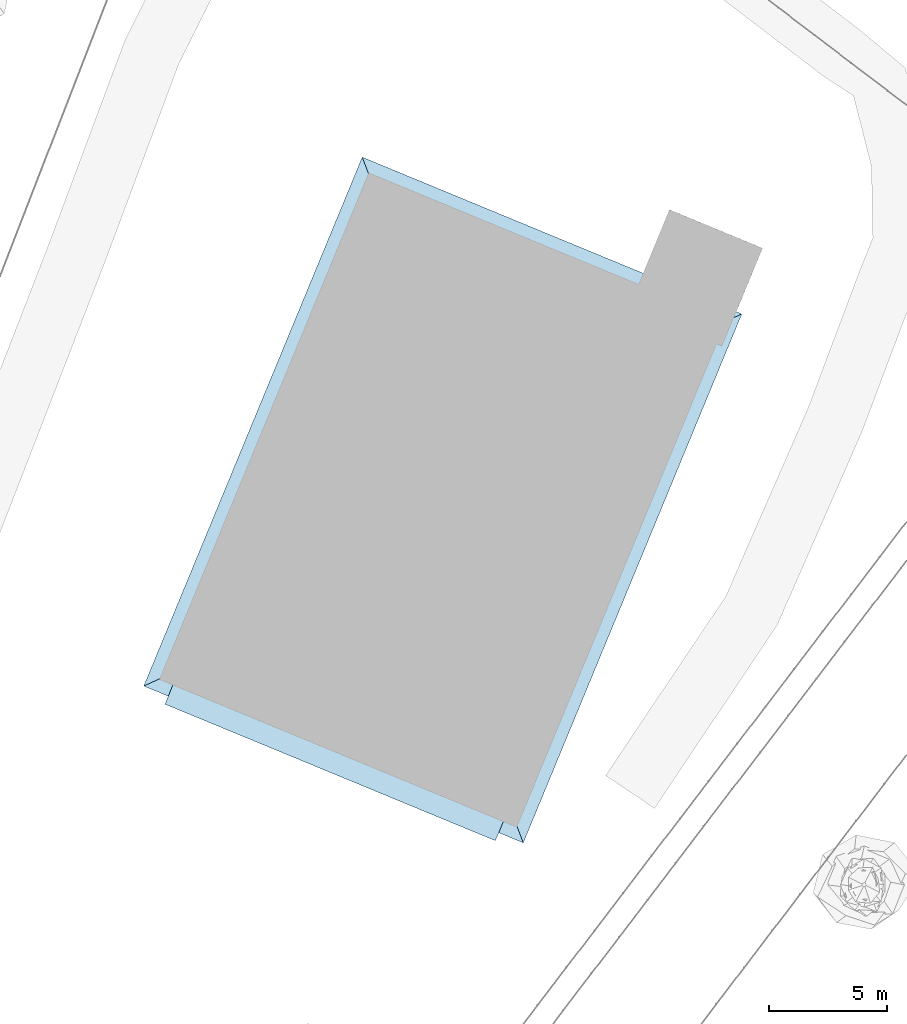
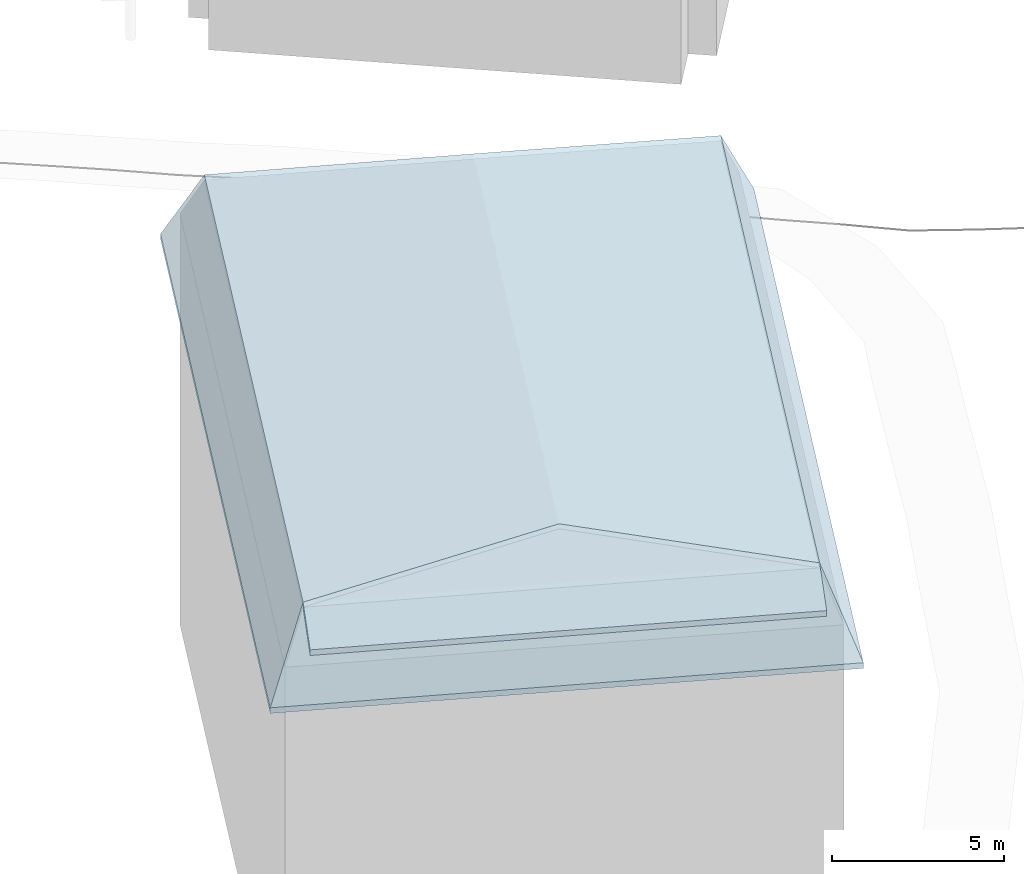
# Not in any storey, part 9 of 88: 1 roof.
"""IFC4 building model written with IfcOpenShell, lengths in metres."""

from ifc_helpers import new_model, si_unit, origin_with_axes, place, context, subcontext, project, spatial, faceted_brep, element, save


model = new_model("IFC4")

# Units and contexts
model_context = context("Model", 3, precision=1e-05, world=origin_with_axes())
body_context = subcontext(model_context, "Body", "Model", "MODEL_VIEW")
ifc_project = project(units=[si_unit("LENGTHUNIT", "METRE"), si_unit("AREAUNIT", "SQUARE_METRE"), si_unit("VOLUMEUNIT", "CUBIC_METRE"), si_unit("PLANEANGLEUNIT", "RADIAN")], contexts=[model_context])

# Sites, building
site_1_placement = place(None, origin_with_axes())
site_1 = spatial("IfcSite", under=ifc_project, at=site_1_placement, Name="CH907857693633", CompositionType="ELEMENT")
site_2_placement = place(None, origin_with_axes())
site_2 = spatial("IfcSite", under=site_1, at=site_2_placement, Name="Buildings", CompositionType="ELEMENT")
building_placement = place(None, origin_with_axes())
building = spatial("IfcBuilding", under=site_2, at=building_placement, Name="Building_5E36CA29", CompositionType="ELEMENT")

# Roof
roof_placement = place(building_placement, origin_with_axes())
element("IfcRoof", 1, at=roof_placement, inside=building, Name="Building_5E36CA29_Roof", PredefinedType="NOTDEFINED", context=body_context, shape_type="Brep", body=[
    faceted_brep([(71.7170000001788, 116.927000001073, 19.2657877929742), (65.0049999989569, 120.548999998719, 19.5696877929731), (64.7049999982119, 119.824999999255, 19.2657877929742), (65.0049999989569, 120.548999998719, 19.5696877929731), (58.2910000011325, 124.168999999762, 19.87568779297), (57.695000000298, 122.721000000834, 19.2657877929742), (58.2910000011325, 124.168999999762, 19.87568779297), (65.0049999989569, 120.548999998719, 19.5696877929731), (65.3029999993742, 121.272999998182, 19.87568779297), (72.2769999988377, 118.280999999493, 19.6356877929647), (72.3150000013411, 118.375, 19.87568779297), (71.7170000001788, 116.927000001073, 19.2657877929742), (72.2769999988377, 118.280999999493, 19.6356877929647), (71.7170000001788, 116.927000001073, 19.2657877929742), (71.7170000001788, 116.927000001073, 19.0657877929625), (58.2910000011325, 124.168999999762, 19.87568779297), (58.2529999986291, 124.074999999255, 19.6356877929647), (57.695000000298, 122.721000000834, 19.2657877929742), (58.2529999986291, 124.074999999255, 19.6356877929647), (57.695000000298, 122.721000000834, 19.0657877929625), (57.695000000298, 122.721000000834, 19.2657877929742), (64.7049999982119, 119.824999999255, 19.0657877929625), (64.7049999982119, 119.824999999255, 19.1657877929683), (57.695000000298, 122.721000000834, 19.0657877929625), (64.7049999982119, 119.824999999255, 19.1657877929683), (57.695000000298, 122.721000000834, 19.2657877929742), (57.695000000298, 122.721000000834, 19.0657877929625), (57.695000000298, 122.721000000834, 19.2657877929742), (64.7049999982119, 119.824999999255, 19.1657877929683), (64.7049999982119, 119.824999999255, 19.2657877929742), (64.7049999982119, 119.824999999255, 19.2657877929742), (64.7049999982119, 119.824999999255, 19.1657877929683), (71.7170000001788, 116.927000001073, 19.2657877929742), (71.7170000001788, 116.927000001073, 19.0657877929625), (64.7049999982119, 119.824999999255, 19.1657877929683), (64.7049999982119, 119.824999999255, 19.0657877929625), (64.7049999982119, 119.824999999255, 19.1657877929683), (71.7170000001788, 116.927000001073, 19.0657877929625), (71.7170000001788, 116.927000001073, 19.2657877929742), (72.2769999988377, 118.280999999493, 19.6356877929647), (71.7170000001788, 116.927000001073, 19.0657877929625), (64.984999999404, 120.500999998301, 19.3497877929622), (57.695000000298, 122.721000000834, 19.0657877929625), (58.2529999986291, 124.074999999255, 19.6356877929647), (64.984999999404, 120.500999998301, 19.3497877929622), (79.1009999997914, 143.703000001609, 8.55458779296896), (81.3310000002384, 137.903000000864, 8.55458779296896), (83.0509999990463, 142.070999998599, 8.55458779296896), (81.3310000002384, 137.903000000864, 8.55458779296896), (79.1009999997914, 143.703000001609, 8.55458779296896), (77.3790000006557, 139.535000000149, 8.55458779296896), (77.3790000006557, 139.535000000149, 8.55458779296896), (81.3310000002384, 137.903000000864, 8.35458779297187), (81.3310000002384, 137.903000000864, 8.55458779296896), (81.3310000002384, 137.903000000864, 8.35458779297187), (77.3790000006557, 139.535000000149, 8.55458779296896), (77.3790000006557, 139.535000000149, 8.35458779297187), (83.0509999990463, 142.070999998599, 8.35458779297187), (81.3310000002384, 137.903000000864, 8.55458779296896), (81.3310000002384, 137.903000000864, 8.35458779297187), (81.3310000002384, 137.903000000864, 8.55458779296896), (83.0509999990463, 142.070999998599, 8.35458779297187), (83.0509999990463, 142.070999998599, 8.55458779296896), (83.0509999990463, 142.070999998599, 8.55458779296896), (83.0509999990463, 142.070999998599, 8.35458779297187), (79.1009999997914, 143.703000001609, 8.35458779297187), (79.1009999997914, 143.703000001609, 8.35458779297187), (79.1009999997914, 143.703000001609, 8.55458779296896), (83.0509999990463, 142.070999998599, 8.55458779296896), (77.3790000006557, 139.535000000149, 8.55458779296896), (79.1009999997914, 143.703000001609, 8.35458779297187), (77.3790000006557, 139.535000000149, 8.35458779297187), (79.1009999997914, 143.703000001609, 8.35458779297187), (77.3790000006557, 139.535000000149, 8.55458779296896), (79.1009999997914, 143.703000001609, 8.55458779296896), (79.1009999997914, 143.703000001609, 8.35458779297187), (81.3310000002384, 137.903000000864, 8.35458779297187), (77.3790000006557, 139.535000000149, 8.35458779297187), (81.3310000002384, 137.903000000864, 8.35458779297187), (79.1009999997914, 143.703000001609, 8.35458779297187), (83.0509999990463, 142.070999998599, 8.35458779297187), (66.0650000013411, 145.932999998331, 17.0538877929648), (66.6490000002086, 144.394999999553, 19.87568779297), (73.3689999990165, 142.267000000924, 18.4637877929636), (73.3689999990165, 142.267000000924, 18.4637877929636), (74.1169999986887, 142.605000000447, 17.0538877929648), (66.0650000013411, 145.932999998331, 17.0538877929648), (74.1169999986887, 142.605000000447, 17.0538877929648), (73.3689999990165, 142.267000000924, 18.4637877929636), (80.6710000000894, 138.598999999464, 19.87568779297), (82.1710000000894, 139.276999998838, 17.0538877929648), (80.6710000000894, 138.598999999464, 19.87568779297), (77.535000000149, 128.05700000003, 17.0538877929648), (76.785000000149, 127.719000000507, 18.4637877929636), (72.3150000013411, 118.375, 19.87568779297), (72.8990000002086, 116.837000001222, 17.0538877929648), (72.3150000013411, 118.375, 19.87568779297), (76.785000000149, 127.719000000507, 18.4637877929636), (76.4950000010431, 128.486999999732, 19.87568779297), (56.7950000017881, 123.491000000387, 17.0539877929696), (58.2910000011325, 124.168999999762, 19.87568779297), (61.7210000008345, 133.94299999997, 18.4637877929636), (66.6490000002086, 144.394999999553, 19.87568779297), (61.4290000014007, 134.710999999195, 17.0538877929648), (61.7210000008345, 133.94299999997, 18.4637877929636), (72.8990000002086, 116.837000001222, 17.0538877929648), (72.3150000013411, 118.375, 19.87568779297), (72.2769999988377, 118.280999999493, 19.6356877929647), (72.8990000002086, 116.837000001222, 17.0538877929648), (72.2769999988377, 118.280999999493, 19.6356877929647), (64.8469999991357, 120.164999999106, 17.0538877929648), (58.2529999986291, 124.074999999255, 19.6356877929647), (64.535000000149, 120.886999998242, 18.3437877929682), (65.265000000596, 121.177000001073, 19.6356877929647), (58.2529999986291, 124.074999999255, 19.6356877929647), (58.2910000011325, 124.168999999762, 19.87568779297), (56.7950000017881, 123.491000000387, 17.0539877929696), (72.3150000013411, 118.375, 19.87568779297), (65.9809999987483, 122.578999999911, 20.9335877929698), (65.3029999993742, 121.272999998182, 19.87568779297), (58.2910000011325, 124.168999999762, 19.87568779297), (65.9809999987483, 122.578999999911, 20.9335877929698), (65.7549999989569, 132.131000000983, 20.4036877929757), (73.2170000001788, 140.090999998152, 20.9335877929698), (62.4710000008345, 134.282999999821, 19.87568779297), (65.7549999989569, 132.131000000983, 20.4036877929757), (65.9809999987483, 122.578999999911, 20.9335877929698), (76.4950000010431, 128.486999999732, 19.87568779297), (73.3269999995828, 130.590999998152, 20.4036877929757), (80.6710000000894, 138.598999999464, 19.87568779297), (73.2170000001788, 140.090999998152, 20.9335877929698), (73.3269999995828, 130.590999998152, 20.4036877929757), (66.6490000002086, 144.394999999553, 19.87568779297), (73.2170000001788, 140.090999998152, 20.9335877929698), (73.6590000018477, 141.497000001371, 19.87568779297), (74.1169999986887, 142.605000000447, 16.9538877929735), (66.0650000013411, 145.932999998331, 17.0538877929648), (74.1169999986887, 142.605000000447, 17.0538877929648), (74.1169999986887, 142.605000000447, 16.9538877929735), (74.1169999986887, 142.605000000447, 16.8538877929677), (66.0650000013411, 145.932999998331, 16.8539877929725), (66.0650000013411, 145.932999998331, 17.0538877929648), (74.1169999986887, 142.605000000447, 16.9538877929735), (66.0650000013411, 145.932999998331, 16.8539877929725), (74.1169999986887, 142.605000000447, 16.9538877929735), (74.1169999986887, 142.605000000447, 17.0538877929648), (82.1710000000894, 139.276999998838, 17.0538877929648), (74.1169999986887, 142.605000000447, 16.9538877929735), (82.1710000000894, 139.276999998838, 16.8538877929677), (74.1169999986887, 142.605000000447, 16.8538877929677), (82.1710000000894, 139.276999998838, 16.8538877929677), (74.1169999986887, 142.605000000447, 16.9538877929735), (82.1710000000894, 139.276999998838, 17.0538877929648), (56.7950000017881, 123.491000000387, 17.0539877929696), (61.4290000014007, 134.710999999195, 16.9539877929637), (56.7950000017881, 123.491000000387, 16.8539877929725), (61.4290000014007, 134.710999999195, 16.8539877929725), (56.7950000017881, 123.491000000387, 16.8539877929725), (61.4290000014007, 134.710999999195, 16.9539877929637), (61.4290000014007, 134.710999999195, 16.9539877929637), (56.7950000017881, 123.491000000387, 17.0539877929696), (61.4290000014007, 134.710999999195, 17.0538877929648), (66.0650000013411, 145.932999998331, 16.8539877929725), (61.4290000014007, 134.710999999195, 16.9539877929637), (66.0650000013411, 145.932999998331, 17.0538877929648), (61.4290000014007, 134.710999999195, 17.0538877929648), (66.0650000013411, 145.932999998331, 17.0538877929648), (61.4290000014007, 134.710999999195, 16.9539877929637), (61.4290000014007, 134.710999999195, 16.9539877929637), (66.0650000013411, 145.932999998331, 16.8539877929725), (61.4290000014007, 134.710999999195, 16.8539877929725), (64.8469999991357, 120.164999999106, 17.0538877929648), (64.8469999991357, 120.164999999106, 16.9538877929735), (72.8990000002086, 116.837000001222, 17.0538877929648), (64.8469999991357, 120.164999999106, 16.9538877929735), (72.8990000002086, 116.83900000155, 16.8538877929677), (72.8990000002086, 116.837000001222, 17.0538877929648), (72.8990000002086, 116.83900000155, 16.8538877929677), (64.8469999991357, 120.164999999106, 16.9538877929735), (64.8469999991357, 120.164999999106, 16.8539877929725), (64.8469999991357, 120.164999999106, 16.9538877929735), (56.7950000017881, 123.491000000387, 17.0539877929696), (56.7950000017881, 123.491000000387, 16.8539877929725), (64.8469999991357, 120.164999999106, 16.8539877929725), (64.8469999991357, 120.164999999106, 16.9538877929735), (56.7950000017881, 123.491000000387, 16.8539877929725), (56.7950000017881, 123.491000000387, 17.0539877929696), (64.8469999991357, 120.164999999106, 16.9538877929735), (64.8469999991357, 120.164999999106, 17.0538877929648), (72.8990000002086, 116.83900000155, 16.8538877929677), (77.535000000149, 128.05700000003, 16.8538877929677), (77.535000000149, 128.05700000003, 16.9538877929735), (77.535000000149, 128.05700000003, 16.9538877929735), (72.8990000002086, 116.837000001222, 17.0538877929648), (72.8990000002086, 116.83900000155, 16.8538877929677), (72.8990000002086, 116.837000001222, 17.0538877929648), (77.535000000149, 128.05700000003, 16.9538877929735), (77.535000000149, 128.05700000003, 17.0538877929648), (82.1710000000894, 139.276999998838, 17.0538877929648), (77.535000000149, 128.05700000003, 17.0538877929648), (77.535000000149, 128.05700000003, 16.9538877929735), (82.1710000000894, 139.276999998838, 16.8538877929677), (77.535000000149, 128.05700000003, 16.9538877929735), (77.535000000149, 128.05700000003, 16.8538877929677), (77.535000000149, 128.05700000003, 16.9538877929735), (82.1710000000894, 139.276999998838, 16.8538877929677), (82.1710000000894, 139.276999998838, 17.0538877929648), (82.1710000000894, 139.276999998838, 16.8538877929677), (80.6710000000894, 138.598999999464, 19.6736877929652), (74.1169999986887, 142.605000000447, 16.8538877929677), (72.3150000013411, 118.375, 19.6736877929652), (77.535000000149, 128.05700000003, 16.8538877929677), (72.8990000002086, 116.83900000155, 16.8538877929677), (77.535000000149, 128.05700000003, 16.8538877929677), (72.3150000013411, 118.375, 19.6736877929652), (77.2430000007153, 128.824999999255, 18.2637877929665), (80.6710000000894, 138.598999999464, 19.6736877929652), (77.2430000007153, 128.824999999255, 18.2637877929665), (76.4950000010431, 128.486999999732, 19.6736877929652), (66.0650000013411, 145.932999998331, 16.8539877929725), (66.6490000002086, 144.394999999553, 19.6736877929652), (61.4290000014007, 134.710999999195, 16.8539877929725), (66.6490000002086, 144.394999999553, 19.6736877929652), (73.3689999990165, 142.267000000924, 18.2637877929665), (73.6590000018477, 141.497000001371, 19.6736877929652), (56.7950000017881, 123.491000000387, 16.8539877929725), (58.2910000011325, 124.168999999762, 19.6736877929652), (64.8469999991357, 120.164999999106, 16.8539877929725), (58.2910000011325, 124.168999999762, 19.6736877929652), (61.7210000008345, 133.94299999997, 18.2638877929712), (62.4710000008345, 134.282999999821, 19.6736877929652), (72.3150000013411, 118.375, 19.6736877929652), (65.5949999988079, 120.502999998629, 18.2637877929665), (65.3029999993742, 121.272999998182, 19.6736877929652), (58.2910000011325, 124.168999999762, 19.6736877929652), (65.9809999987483, 122.578999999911, 20.7335877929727), (65.3029999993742, 121.272999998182, 19.6736877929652), (65.9809999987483, 122.578999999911, 20.7335877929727), (65.7549999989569, 132.131000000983, 20.203687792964), (69.5989999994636, 131.335000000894, 20.7335877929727), (69.5989999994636, 131.335000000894, 20.7335877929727), (65.7549999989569, 132.131000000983, 20.203687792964), (73.2170000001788, 140.090999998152, 20.7335877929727), (72.3150000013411, 118.375, 19.6736877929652), (65.9809999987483, 122.578999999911, 20.7335877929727), (76.4950000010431, 128.486999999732, 19.6736877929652), (69.5989999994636, 131.335000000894, 20.7335877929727), (73.3269999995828, 130.590999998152, 20.203687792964), (65.9809999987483, 122.578999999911, 20.7335877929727), (73.2170000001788, 140.090999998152, 20.7335877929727), (73.3269999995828, 130.590999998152, 20.203687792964), (69.5989999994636, 131.335000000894, 20.7335877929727), (66.6490000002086, 144.394999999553, 19.6736877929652), (73.2170000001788, 140.090999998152, 20.7335877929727), (62.4710000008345, 134.282999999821, 19.6736877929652), (80.6710000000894, 138.598999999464, 19.6736877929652), (73.2170000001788, 140.090999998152, 20.7335877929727), (73.6590000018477, 141.497000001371, 19.6736877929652), (66.6490000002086, 144.394999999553, 19.87568779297), (66.0650000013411, 145.932999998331, 17.0538877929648), (61.4290000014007, 134.710999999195, 17.0538877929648), (56.7950000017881, 123.491000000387, 16.8539877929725), (61.4290000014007, 134.710999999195, 16.8539877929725), (61.7210000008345, 133.94299999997, 18.2638877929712), (72.8990000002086, 116.837000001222, 17.0538877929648), (77.535000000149, 128.05700000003, 17.0538877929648), (76.785000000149, 127.719000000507, 18.4637877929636), (82.1710000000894, 139.276999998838, 16.8538877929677), (77.535000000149, 128.05700000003, 16.8538877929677), (77.2430000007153, 128.824999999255, 18.2637877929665), (66.6490000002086, 144.394999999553, 19.87568779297), (61.7210000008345, 133.94299999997, 18.4637877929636), (62.4710000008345, 134.282999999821, 19.87568779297), (61.4290000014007, 134.710999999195, 17.0538877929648), (56.7950000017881, 123.491000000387, 17.0539877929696), (61.7210000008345, 133.94299999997, 18.4637877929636), (61.4290000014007, 134.710999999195, 16.8539877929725), (66.6490000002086, 144.394999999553, 19.6736877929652), (61.7210000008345, 133.94299999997, 18.2638877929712), (58.2910000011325, 124.168999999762, 19.6736877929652), (56.7950000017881, 123.491000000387, 16.8539877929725), (61.7210000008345, 133.94299999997, 18.2638877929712), (80.6710000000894, 138.598999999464, 19.6736877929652), (82.1710000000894, 139.276999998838, 16.8538877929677), (77.2430000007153, 128.824999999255, 18.2637877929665), (77.535000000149, 128.05700000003, 17.0538877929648), (80.6710000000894, 138.598999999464, 19.87568779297), (76.785000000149, 127.719000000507, 18.4637877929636), (61.7210000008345, 133.94299999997, 18.4637877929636), (58.2910000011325, 124.168999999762, 19.87568779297), (62.4710000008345, 134.282999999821, 19.87568779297), (73.2170000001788, 140.090999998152, 20.9335877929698), (66.6490000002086, 144.394999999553, 19.87568779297), (62.4710000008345, 134.282999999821, 19.87568779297), (61.7210000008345, 133.94299999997, 18.2638877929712), (66.6490000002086, 144.394999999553, 19.6736877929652), (62.4710000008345, 134.282999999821, 19.6736877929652), (58.2910000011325, 124.168999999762, 19.6736877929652), (62.4710000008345, 134.282999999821, 19.6736877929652), (65.7549999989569, 132.131000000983, 20.203687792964), (76.785000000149, 127.719000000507, 18.4637877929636), (80.6710000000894, 138.598999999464, 19.87568779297), (76.4950000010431, 128.486999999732, 19.87568779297), (65.9809999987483, 122.578999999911, 20.9335877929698), (72.3150000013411, 118.375, 19.87568779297), (76.4950000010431, 128.486999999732, 19.87568779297), (77.2430000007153, 128.824999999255, 18.2637877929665), (72.3150000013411, 118.375, 19.6736877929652), (76.4950000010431, 128.486999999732, 19.6736877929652), (80.6710000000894, 138.598999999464, 19.6736877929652), (76.4950000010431, 128.486999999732, 19.6736877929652), (73.3269999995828, 130.590999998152, 20.203687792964), (65.7549999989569, 132.131000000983, 20.4036877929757), (65.9809999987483, 122.578999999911, 20.9335877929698), (69.5989999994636, 131.335000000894, 20.9335877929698), (65.7549999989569, 132.131000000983, 20.4036877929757), (69.5989999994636, 131.335000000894, 20.9335877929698), (73.2170000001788, 140.090999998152, 20.9335877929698), (62.4710000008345, 134.282999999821, 19.87568779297), (58.2910000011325, 124.168999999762, 19.87568779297), (65.7549999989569, 132.131000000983, 20.4036877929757), (65.9809999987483, 122.578999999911, 20.7335877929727), (58.2910000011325, 124.168999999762, 19.6736877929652), (65.7549999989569, 132.131000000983, 20.203687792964), (62.4710000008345, 134.282999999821, 19.6736877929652), (73.2170000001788, 140.090999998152, 20.7335877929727), (65.7549999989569, 132.131000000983, 20.203687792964), (76.4950000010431, 128.486999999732, 19.87568779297), (80.6710000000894, 138.598999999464, 19.87568779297), (73.3269999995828, 130.590999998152, 20.4036877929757), (73.3269999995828, 130.590999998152, 20.4036877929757), (69.5989999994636, 131.335000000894, 20.9335877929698), (65.9809999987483, 122.578999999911, 20.9335877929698), (73.3269999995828, 130.590999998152, 20.4036877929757), (73.2170000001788, 140.090999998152, 20.9335877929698), (69.5989999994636, 131.335000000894, 20.9335877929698), (76.4950000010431, 128.486999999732, 19.6736877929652), (65.9809999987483, 122.578999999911, 20.7335877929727), (73.3269999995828, 130.590999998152, 20.203687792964), (73.2170000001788, 140.090999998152, 20.7335877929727), (80.6710000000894, 138.598999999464, 19.6736877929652), (73.3269999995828, 130.590999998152, 20.203687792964), (80.6710000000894, 138.598999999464, 19.87568779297), (82.1710000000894, 139.276999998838, 17.0538877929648), (74.1169999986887, 142.605000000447, 17.0538877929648), (74.1169999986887, 142.605000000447, 16.8538877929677), (73.3689999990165, 142.267000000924, 18.2637877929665), (66.0650000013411, 145.932999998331, 16.8539877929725), (73.3689999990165, 142.267000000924, 18.2637877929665), (74.1169999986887, 142.605000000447, 16.8538877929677), (80.6710000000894, 138.598999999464, 19.6736877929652), (56.7950000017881, 123.491000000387, 17.0539877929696), (64.8469999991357, 120.164999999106, 17.0538877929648), (64.535000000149, 120.886999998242, 18.3437877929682), (72.8990000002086, 116.83900000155, 16.8538877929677), (64.8469999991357, 120.164999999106, 16.8539877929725), (65.5949999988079, 120.502999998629, 18.2637877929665), (80.6710000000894, 138.598999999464, 19.87568779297), (73.3689999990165, 142.267000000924, 18.4637877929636), (73.6590000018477, 141.497000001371, 19.87568779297), (66.6490000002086, 144.394999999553, 19.6736877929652), (66.0650000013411, 145.932999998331, 16.8539877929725), (73.3689999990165, 142.267000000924, 18.2637877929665), (64.8469999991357, 120.164999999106, 16.8539877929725), (58.2910000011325, 124.168999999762, 19.6736877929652), (65.5949999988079, 120.502999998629, 18.2637877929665), (72.3150000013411, 118.375, 19.6736877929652), (72.8990000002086, 116.83900000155, 16.8538877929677), (65.5949999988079, 120.502999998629, 18.2637877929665), (64.8469999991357, 120.164999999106, 17.0538877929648), (72.2769999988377, 118.280999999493, 19.6356877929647), (64.535000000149, 120.886999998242, 18.3437877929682), (58.2529999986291, 124.074999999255, 19.6356877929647), (56.7950000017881, 123.491000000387, 17.0539877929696), (64.535000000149, 120.886999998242, 18.3437877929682), (71.7170000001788, 116.927000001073, 19.2657877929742), (72.3150000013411, 118.375, 19.87568779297), (65.0049999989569, 120.548999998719, 19.5696877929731), (57.695000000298, 122.721000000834, 19.0657877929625), (64.984999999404, 120.500999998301, 19.3497877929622), (64.7049999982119, 119.824999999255, 19.0657877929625), (72.2769999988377, 118.280999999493, 19.6356877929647), (64.984999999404, 120.500999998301, 19.3497877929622), (65.265000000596, 121.177000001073, 19.6356877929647), (73.3689999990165, 142.267000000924, 18.4637877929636), (66.6490000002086, 144.394999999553, 19.87568779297), (73.6590000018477, 141.497000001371, 19.87568779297), (73.2170000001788, 140.090999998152, 20.9335877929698), (80.6710000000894, 138.598999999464, 19.87568779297), (73.6590000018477, 141.497000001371, 19.87568779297), (73.3689999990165, 142.267000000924, 18.2637877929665), (80.6710000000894, 138.598999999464, 19.6736877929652), (73.6590000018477, 141.497000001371, 19.6736877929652), (73.2170000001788, 140.090999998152, 20.7335877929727), (66.6490000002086, 144.394999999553, 19.6736877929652), (73.6590000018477, 141.497000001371, 19.6736877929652), (65.0049999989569, 120.548999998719, 19.5696877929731), (57.695000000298, 122.721000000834, 19.2657877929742), (64.7049999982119, 119.824999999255, 19.2657877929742), (65.0049999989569, 120.548999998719, 19.5696877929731), (72.3150000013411, 118.375, 19.87568779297), (65.3029999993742, 121.272999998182, 19.87568779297), (65.9809999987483, 122.578999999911, 20.9335877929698), (58.2910000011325, 124.168999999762, 19.87568779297), (65.3029999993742, 121.272999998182, 19.87568779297), (64.984999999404, 120.500999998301, 19.3497877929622), (71.7170000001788, 116.927000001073, 19.0657877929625), (64.7049999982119, 119.824999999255, 19.0657877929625), (64.984999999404, 120.500999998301, 19.3497877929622), (58.2529999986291, 124.074999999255, 19.6356877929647), (65.265000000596, 121.177000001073, 19.6356877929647), (64.535000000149, 120.886999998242, 18.3437877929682), (72.2769999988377, 118.280999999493, 19.6356877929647), (65.265000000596, 121.177000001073, 19.6356877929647), (65.5949999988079, 120.502999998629, 18.2637877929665), (58.2910000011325, 124.168999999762, 19.6736877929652), (65.3029999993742, 121.272999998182, 19.6736877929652), (65.9809999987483, 122.578999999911, 20.7335877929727), (72.3150000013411, 118.375, 19.6736877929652), (65.3029999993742, 121.272999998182, 19.6736877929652)], [[[0, 1, 2]], [[3, 4, 5]], [[6, 7, 8]], [[9, 10, 11]], [[12, 13, 14]], [[15, 16, 17]], [[18, 19, 20]], [[21, 22, 23]], [[24, 25, 26]], [[27, 28, 29]], [[30, 31, 32]], [[33, 34, 35]], [[36, 37, 38]], [[39, 40, 41]], [[42, 43, 44]], [[45, 46, 47]], [[48, 49, 50]], [[51, 52, 53]], [[54, 55, 56]], [[57, 58, 59]], [[60, 61, 62]], [[63, 64, 65]], [[66, 67, 68]], [[69, 70, 71]], [[72, 73, 74]], [[75, 76, 77]], [[78, 79, 80]], [[81, 82, 83]], [[84, 85, 86]], [[87, 88, 89]], [[90, 91, 92]], [[93, 94, 95]], [[96, 97, 98]], [[99, 100, 101]], [[102, 103, 104]], [[105, 106, 107]], [[108, 109, 110]], [[111, 112, 113]], [[114, 115, 116]], [[117, 118, 119]], [[120, 121, 122]], [[123, 124, 125]], [[126, 127, 128]], [[129, 130, 131]], [[132, 133, 134]], [[135, 136, 137]], [[138, 139, 140]], [[141, 142, 143]], [[144, 145, 146]], [[147, 148, 149]], [[150, 151, 152]], [[153, 154, 155]], [[156, 157, 158]], [[159, 160, 161]], [[162, 163, 164]], [[165, 166, 167]], [[168, 169, 170]], [[171, 172, 173]], [[174, 175, 176]], [[177, 178, 179]], [[180, 181, 182]], [[183, 184, 185]], [[186, 187, 188]], [[189, 190, 191]], [[192, 193, 194]], [[195, 196, 197]], [[198, 199, 200]], [[201, 202, 203]], [[204, 205, 206]], [[207, 208, 209]], [[210, 211, 212]], [[213, 214, 215]], [[216, 217, 218]], [[219, 220, 221]], [[222, 223, 224]], [[225, 226, 227]], [[228, 229, 230]], [[231, 232, 233]], [[234, 235, 236]], [[237, 238, 239]], [[240, 241, 242]], [[243, 244, 245]], [[246, 247, 248]], [[249, 250, 251]], [[252, 253, 254]], [[255, 256, 257]], [[258, 259, 260]], [[261, 262, 263]], [[264, 265, 266]], [[267, 268, 269]], [[270, 271, 272]], [[273, 274, 275]], [[276, 277, 278]], [[279, 280, 281]], [[282, 283, 284]], [[285, 286, 287]], [[288, 289, 290]], [[291, 292, 293]], [[294, 295, 296]], [[297, 298, 299]], [[300, 301, 302]], [[303, 304, 305]], [[306, 307, 308]], [[309, 310, 311]], [[312, 313, 314]], [[315, 316, 317]], [[318, 319, 320]], [[321, 322, 323]], [[324, 325, 326]], [[327, 328, 329]], [[330, 331, 332]], [[333, 334, 335]], [[336, 337, 338]], [[339, 340, 341]], [[342, 343, 344]], [[345, 346, 347]], [[348, 349, 350]], [[351, 352, 353]], [[354, 355, 356]], [[357, 358, 359]], [[360, 361, 362]], [[363, 364, 365]], [[366, 367, 368]], [[369, 370, 371]], [[372, 373, 374]], [[375, 376, 377]], [[378, 379, 380]], [[381, 382, 383]], [[384, 385, 386]], [[387, 388, 389]], [[390, 391, 392]], [[393, 394, 395]], [[396, 397, 398]], [[399, 400, 401]], [[402, 403, 404]], [[405, 406, 407]], [[408, 409, 410]], [[411, 412, 413]], [[414, 415, 416]], [[417, 418, 419]]]),
])

save(model, "model.ifc")
